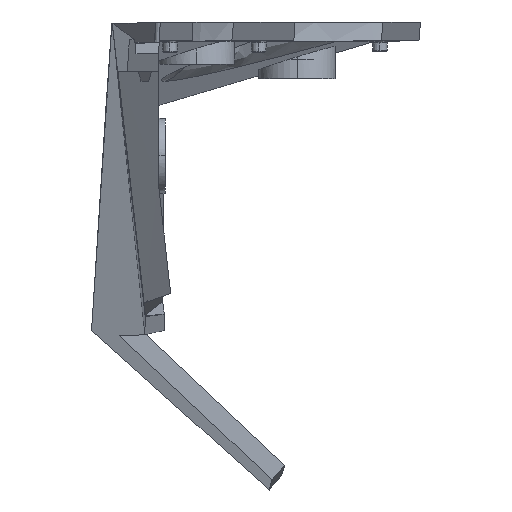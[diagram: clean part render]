
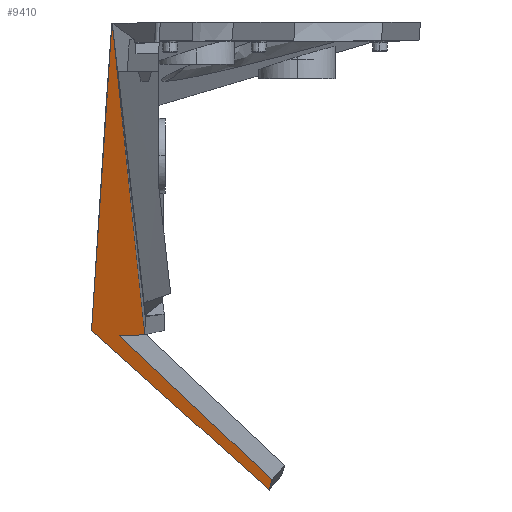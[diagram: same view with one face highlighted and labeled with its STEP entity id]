
A CAD part, left-side view. The second image highlights one B-rep face of the part: STEP entity #9410.
In plain terms, the highlighted planar face has unit normal (-0.093, 0.669, -0.738).
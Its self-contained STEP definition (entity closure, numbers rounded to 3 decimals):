
#452 = CARTESIAN_POINT ( 'NONE',  ( 99.047, 131.652, 52.661 ) ) ;
#544 = ORIENTED_EDGE ( 'NONE', *, *, #5530, .F. ) ;
#637 = VERTEX_POINT ( 'NONE', #3326 ) ;
#894 = VERTEX_POINT ( 'NONE', #7963 ) ;
#947 = EDGE_CURVE ( 'NONE', #6087, #637, #1133, .T. ) ;
#996 = FACE_OUTER_BOUND ( 'NONE', #2906, .T. ) ;
#1116 = VERTEX_POINT ( 'NONE', #3899 ) ;
#1133 = B_SPLINE_CURVE_WITH_KNOTS ( 'NONE', 3,
 ( #1197, #452, #4043, #7814 ),
 .UNSPECIFIED., .F., .F.,
 ( 4, 4 ),
 ( 0., 1. ),
 .UNSPECIFIED. ) ;
#1197 = CARTESIAN_POINT ( 'NONE',  ( 10.211, 130.946, 63.271 ) ) ;
#1462 = CARTESIAN_POINT ( 'NONE',  ( 260.284, 130.141, 30.874 ) ) ;
#1624 = ORIENTED_EDGE ( 'NONE', *, *, #6135, .T. ) ;
#1801 = VECTOR ( 'NONE', #9920, 1000. ) ;
#1823 = ORIENTED_EDGE ( 'NONE', *, *, #6962, .T. ) ;
#2082 = EDGE_CURVE ( 'NONE', #8271, #1116, #10927, .T. ) ;
#2177 = ORIENTED_EDGE ( 'NONE', *, *, #2082, .F. ) ;
#2803 = CARTESIAN_POINT ( 'NONE',  ( 316.956, 133.382, 26.635 ) ) ;
#2883 = ORIENTED_EDGE ( 'NONE', *, *, #947, .T. ) ;
#2906 = EDGE_LOOP ( 'NONE', ( #1624, #3328, #544, #2177, #11586, #2883, #1823 ) ) ;
#2951 = CARTESIAN_POINT ( 'NONE',  ( 260.284, 130.141, 30.874 ) ) ;
#3308 = CARTESIAN_POINT ( 'NONE',  ( 275.479, 114.603, 14.866 ) ) ;
#3326 = CARTESIAN_POINT ( 'NONE',  ( 276.721, 133.063, 31.441 ) ) ;
#3328 = ORIENTED_EDGE ( 'NONE', *, *, #5418, .F. ) ;
#3645 = CARTESIAN_POINT ( 'NONE',  ( 10.211, 130.946, 63.271 ) ) ;
#3899 = CARTESIAN_POINT ( 'NONE',  ( 240.647, 127.521, 30.986 ) ) ;
#4043 = CARTESIAN_POINT ( 'NONE',  ( 187.884, 132.357, 42.051 ) ) ;
#4408 = EDGE_CURVE ( 'NONE', #8271, #6087, #9345, .T. ) ;
#4572 = CARTESIAN_POINT ( 'NONE',  ( 10.06, 130.925, 63.27 ) ) ;
#4592 = AXIS2_PLACEMENT_3D ( 'NONE', #2803, #4763, #10529 ) ;
#4763 = DIRECTION ( 'NONE',  ( 0.093, -0.669, 0.738 ) ) ;
#5318 = CARTESIAN_POINT ( 'NONE',  ( 240.647, 127.521, 30.986 ) ) ;
#5418 = EDGE_CURVE ( 'NONE', #9988, #11036, #8997, .T. ) ;
#5530 = EDGE_CURVE ( 'NONE', #1116, #9988, #8676, .T. ) ;
#5917 = VECTOR ( 'NONE', #7979, 1000. ) ;
#5946 = CARTESIAN_POINT ( 'NONE',  ( 276.721, 133.063, 31.441 ) ) ;
#6073 = CARTESIAN_POINT ( 'NONE',  ( 247.192, 128.395, 30.949 ) ) ;
#6087 = VERTEX_POINT ( 'NONE', #7559 ) ;
#6134 = CARTESIAN_POINT ( 'NONE',  ( 260.284, 130.141, 30.874 ) ) ;
#6135 = EDGE_CURVE ( 'NONE', #894, #11036, #7103, .T. ) ;
#6962 = EDGE_CURVE ( 'NONE', #637, #894, #8797, .T. ) ;
#7012 = CARTESIAN_POINT ( 'NONE',  ( 240.647, 127.521, 30.986 ) ) ;
#7103 = LINE ( 'NONE', #10764, #5917 ) ;
#7486 = PLANE ( 'NONE',  #4592 ) ;
#7559 = CARTESIAN_POINT ( 'NONE',  ( 10.211, 130.946, 63.271 ) ) ;
#7814 = CARTESIAN_POINT ( 'NONE',  ( 276.721, 133.063, 31.441 ) ) ;
#7963 = CARTESIAN_POINT ( 'NONE',  ( 275.479, 114.603, 14.866 ) ) ;
#7979 = DIRECTION ( 'NONE',  ( -0.995, -0.028, 0.1 ) ) ;
#8271 = VERTEX_POINT ( 'NONE', #9918 ) ;
#8676 = B_SPLINE_CURVE_WITH_KNOTS ( 'NONE', 3,
 ( #7012, #6073, #9854, #2951 ),
 .UNSPECIFIED., .F., .F.,
 ( 4, 4 ),
 ( 0., 1. ),
 .UNSPECIFIED. ) ;
#8797 = B_SPLINE_CURVE_WITH_KNOTS ( 'NONE', 3,
 ( #5946, #11794, #9731, #3308 ),
 .UNSPECIFIED., .F., .F.,
 ( 4, 4 ),
 ( 0., 1. ),
 .UNSPECIFIED. ) ;
#8997 = LINE ( 'NONE', #6134, #1801 ) ;
#9345 = B_SPLINE_CURVE_WITH_KNOTS ( 'NONE', 3,
 ( #11020, #4572, #12143, #3645 ),
 .UNSPECIFIED., .F., .F.,
 ( 4, 4 ),
 ( 0., 1. ),
 .UNSPECIFIED. ) ;
#9410 = ADVANCED_FACE ( 'NONE', ( #996 ), #7486, .F. ) ;
#9731 = CARTESIAN_POINT ( 'NONE',  ( 275.893, 120.756, 20.391 ) ) ;
#9854 = CARTESIAN_POINT ( 'NONE',  ( 253.738, 129.268, 30.911 ) ) ;
#9918 = CARTESIAN_POINT ( 'NONE',  ( 9.985, 130.913, 63.27 ) ) ;
#9920 = DIRECTION ( 'NONE',  ( 0.219, -0.709, -0.67 ) ) ;
#9988 = VERTEX_POINT ( 'NONE', #1462 ) ;
#10039 = CARTESIAN_POINT ( 'NONE',  ( 163.759, 128.652, 41.748 ) ) ;
#10529 = DIRECTION ( 'NONE',  ( -0.99, -0.138, 0. ) ) ;
#10764 = CARTESIAN_POINT ( 'NONE',  ( 275.479, 114.603, 14.866 ) ) ;
#10927 = B_SPLINE_CURVE_WITH_KNOTS ( 'NONE', 3,
 ( #11044, #11855, #10039, #5318 ),
 .UNSPECIFIED., .F., .F.,
 ( 4, 4 ),
 ( 0., 1. ),
 .UNSPECIFIED. ) ;
#10986 = CARTESIAN_POINT ( 'NONE',  ( 265.165, 114.309, 15.906 ) ) ;
#11020 = CARTESIAN_POINT ( 'NONE',  ( 9.985, 130.913, 63.27 ) ) ;
#11036 = VERTEX_POINT ( 'NONE', #10986 ) ;
#11044 = CARTESIAN_POINT ( 'NONE',  ( 9.985, 130.913, 63.27 ) ) ;
#11586 = ORIENTED_EDGE ( 'NONE', *, *, #4408, .T. ) ;
#11794 = CARTESIAN_POINT ( 'NONE',  ( 276.307, 126.91, 25.916 ) ) ;
#11855 = CARTESIAN_POINT ( 'NONE',  ( 86.872, 129.782, 52.509 ) ) ;
#12143 = CARTESIAN_POINT ( 'NONE',  ( 10.135, 130.936, 63.27 ) ) ;
